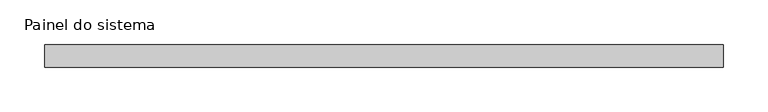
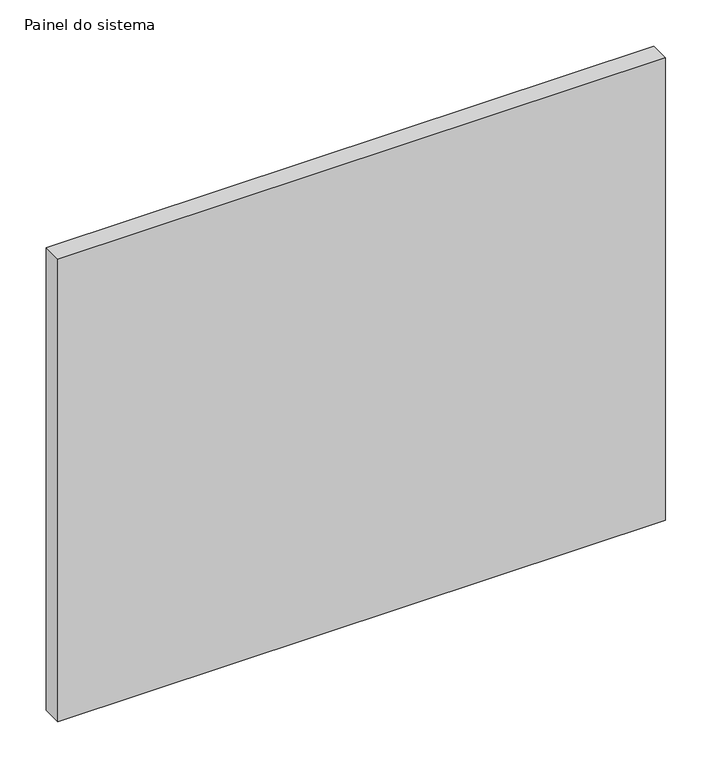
"""IFC4 building model written with IfcOpenShell, lengths in millimetres: plate geometry, Painel do sistema : Envidraçado."""

from ifc_helpers import new_model, si_unit, origin, origin_with_axes, place, context, project, spatial, polyline, outline, extrude, source, transform, mapped, element, save


def painel_do_sistema_769bf063(model_context):
    return source(origin(), model_context, "Body", "SweptSolid", [
        extrude(outline(polyline([(379.1666667, 24.5), (-379.1666667, 24.5), (-379.1666667, 49.5), (379.1666667, 49.5), (379.1666667, 24.5)])), origin_with_axes(), (0.0, 0.0, 1.0), 610.0),
    ])


if __name__ == "__main__":
    model = new_model("IFC4")
    model_context = context("Model", 3, world=origin())
    ifc_project = project(units=[si_unit("LENGTHUNIT", "METRE", prefix="MILLI")], contexts=[model_context])
    site = spatial("IfcSite", under=ifc_project)
    building = spatial("IfcBuilding", under=site)
    placement = place(None, origin())
    painel_do_sistema_shape = painel_do_sistema_769bf063(model_context)
    element("IfcPlate", 1, ObjectType="Painel do sistema : Envidraçado", at=placement, inside=building, context=model_context, shape_type="MappedRepresentation", body=[
        mapped(painel_do_sistema_shape, transform((0.0, 0.0, 0.0), x_axis=(1.0, 0.0, 0.0), y_axis=(0.0, 1.0, 0.0), z_axis=(0.0, 0.0, 1.0))),
    ])
    save(model, "model.ifc")
